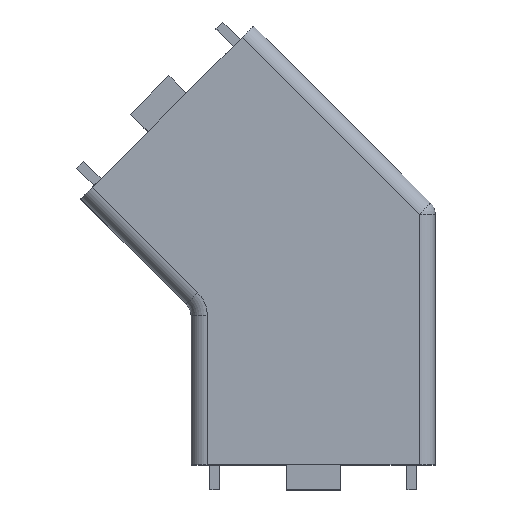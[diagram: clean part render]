
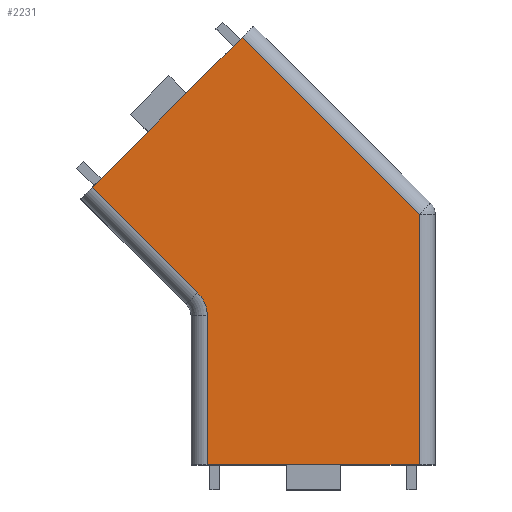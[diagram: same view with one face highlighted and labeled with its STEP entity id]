
A CAD part, top view. The second image highlights one B-rep face of the part: STEP entity #2231.
In plain terms, the highlighted planar face has unit normal (0, 0, 1).
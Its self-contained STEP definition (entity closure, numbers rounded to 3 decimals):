
#24 = CARTESIAN_POINT ( 'NONE',  ( 22.5, 6.8, 22.5 ) ) ;
#75 = LINE ( 'NONE', #2707, #5604 ) ;
#95 = AXIS2_PLACEMENT_3D ( 'NONE', #2064, #445, #3041 ) ;
#103 = VERTEX_POINT ( 'NONE', #4078 ) ;
#242 = VERTEX_POINT ( 'NONE', #360 ) ;
#273 = LINE ( 'NONE', #5573, #4824 ) ;
#360 = CARTESIAN_POINT ( 'NONE',  ( -19.5, 0., 22.5 ) ) ;
#445 = DIRECTION ( 'NONE',  ( 0., 0., 1. ) ) ;
#460 = VECTOR ( 'NONE', #930, 1000. ) ;
#786 = EDGE_CURVE ( 'NONE', #2869, #242, #5353, .T. ) ;
#832 = VERTEX_POINT ( 'NONE', #3837 ) ;
#930 = DIRECTION ( 'NONE',  ( 1., 0., 0. ) ) ;
#1188 = ORIENTED_EDGE ( 'NONE', *, *, #2018, .T. ) ;
#1245 = EDGE_CURVE ( 'NONE', #832, #1421, #1532, .T. ) ;
#1387 = CARTESIAN_POINT ( 'NONE',  ( -20.379, 30.818, 22.5 ) ) ;
#1421 = VERTEX_POINT ( 'NONE', #2742 ) ;
#1436 = CIRCLE ( 'NONE', #95, 6. ) ;
#1532 = LINE ( 'NONE', #5232, #5611 ) ;
#1679 = DIRECTION ( 'NONE',  ( -1., 0., 0. ) ) ;
#1882 = CARTESIAN_POINT ( 'NONE',  ( -13.093, 78.687, 22.5 ) ) ;
#2018 = EDGE_CURVE ( 'NONE', #242, #832, #4418, .T. ) ;
#2027 = ORIENTED_EDGE ( 'NONE', *, *, #1245, .T. ) ;
#2064 = CARTESIAN_POINT ( 'NONE',  ( -25.5, 27.454, 22.5 ) ) ;
#2098 = ORIENTED_EDGE ( 'NONE', *, *, #2437, .F. ) ;
#2213 = ORIENTED_EDGE ( 'NONE', *, *, #4525, .T. ) ;
#2231 = ADVANCED_FACE ( 'NONE', ( #5263 ), #6465, .F. ) ;
#2405 = DIRECTION ( 'NONE',  ( 0.707, 0.707, 0. ) ) ;
#2437 = EDGE_CURVE ( 'NONE', #5901, #3788, #273, .T. ) ;
#2675 = DIRECTION ( 'NONE',  ( 0., 0., -1. ) ) ;
#2707 = CARTESIAN_POINT ( 'NONE',  ( -13.093, 78.687, 22.5 ) ) ;
#2742 = CARTESIAN_POINT ( 'NONE',  ( 19.5, 46.094, 22.5 ) ) ;
#2861 = ORIENTED_EDGE ( 'NONE', *, *, #4793, .T. ) ;
#2869 = VERTEX_POINT ( 'NONE', #3722 ) ;
#2962 = LINE ( 'NONE', #1387, #4394 ) ;
#3041 = DIRECTION ( 'NONE',  ( -1., 0., 0. ) ) ;
#3113 = EDGE_LOOP ( 'NONE', ( #6731, #3675, #1188, #2027, #2861, #2098, #2213 ) ) ;
#3615 = VECTOR ( 'NONE', #3749, 1000. ) ;
#3675 = ORIENTED_EDGE ( 'NONE', *, *, #786, .T. ) ;
#3722 = CARTESIAN_POINT ( 'NONE',  ( -19.5, 27.454, 22.5 ) ) ;
#3749 = DIRECTION ( 'NONE',  ( 0., -1., 0. ) ) ;
#3788 = VERTEX_POINT ( 'NONE', #1882 ) ;
#3837 = CARTESIAN_POINT ( 'NONE',  ( 19.5, 0., 22.5 ) ) ;
#4078 = CARTESIAN_POINT ( 'NONE',  ( -21.257, 31.697, 22.5 ) ) ;
#4394 = VECTOR ( 'NONE', #4541, 1000. ) ;
#4418 = LINE ( 'NONE', #5260, #460 ) ;
#4525 = EDGE_CURVE ( 'NONE', #5901, #103, #2962, .T. ) ;
#4541 = DIRECTION ( 'NONE',  ( 0.707, -0.707, 0. ) ) ;
#4599 = EDGE_CURVE ( 'NONE', #2869, #103, #1436, .T. ) ;
#4793 = EDGE_CURVE ( 'NONE', #1421, #3788, #75, .T. ) ;
#4824 = VECTOR ( 'NONE', #2405, 1000. ) ;
#5232 = CARTESIAN_POINT ( 'NONE',  ( 19.5, 6.8, 22.5 ) ) ;
#5260 = CARTESIAN_POINT ( 'NONE',  ( 22.5, 0., 22.5 ) ) ;
#5263 = FACE_OUTER_BOUND ( 'NONE', #3113, .T. ) ;
#5353 = LINE ( 'NONE', #6937, #3615 ) ;
#5569 = CARTESIAN_POINT ( 'NONE',  ( -40.67, 51.11, 22.5 ) ) ;
#5573 = CARTESIAN_POINT ( 'NONE',  ( -10.972, 80.808, 22.5 ) ) ;
#5604 = VECTOR ( 'NONE', #6889, 1000. ) ;
#5611 = VECTOR ( 'NONE', #6900, 1000. ) ;
#5737 = AXIS2_PLACEMENT_3D ( 'NONE', #24, #2675, #1679 ) ;
#5901 = VERTEX_POINT ( 'NONE', #5569 ) ;
#6465 = PLANE ( 'NONE',  #5737 ) ;
#6731 = ORIENTED_EDGE ( 'NONE', *, *, #4599, .F. ) ;
#6889 = DIRECTION ( 'NONE',  ( -0.707, 0.707, 0. ) ) ;
#6900 = DIRECTION ( 'NONE',  ( 0., 1., 0. ) ) ;
#6937 = CARTESIAN_POINT ( 'NONE',  ( -19.5, 6.8, 22.5 ) ) ;
